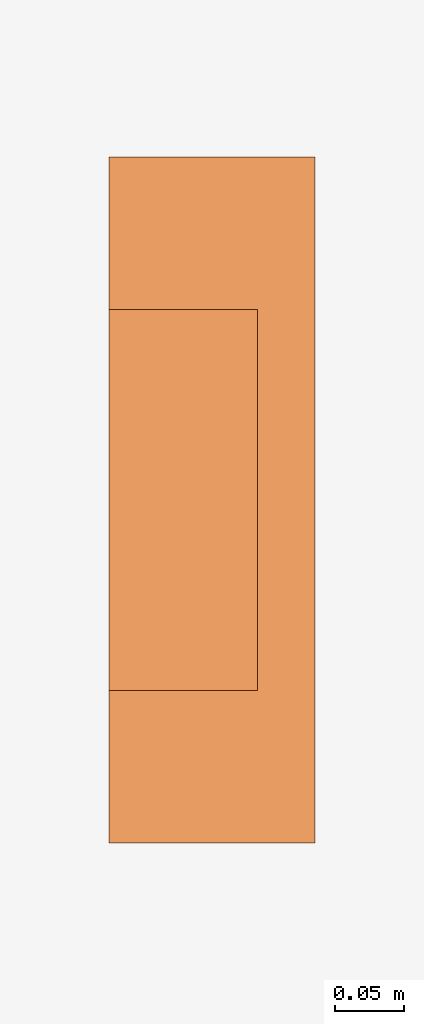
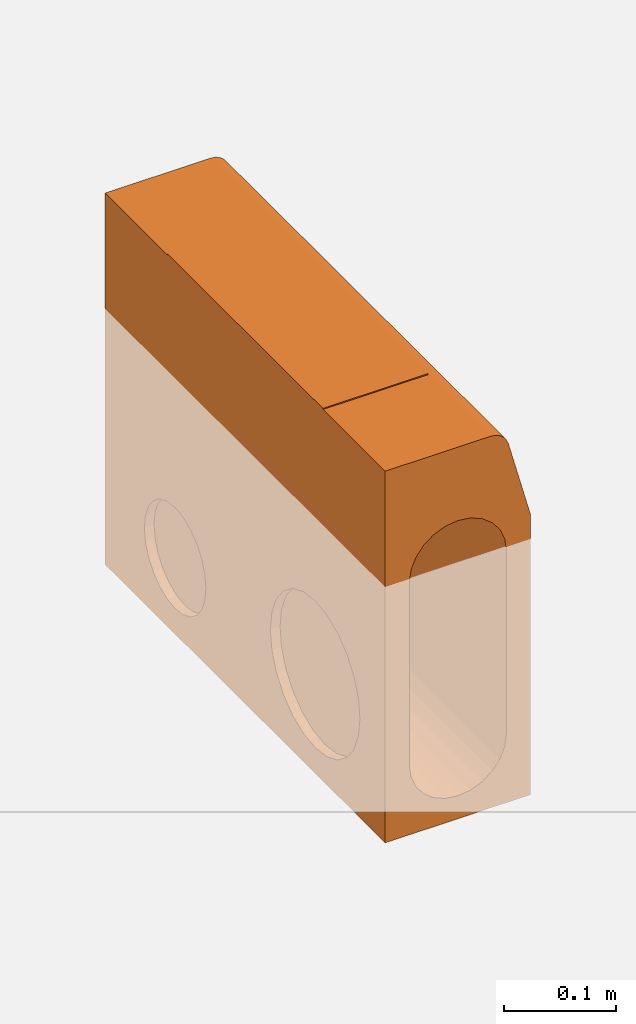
# One storey, part 2 of 2: 1 proxy.
"""IFC2X3 building model written with IfcOpenShell, lengths in millimetres."""

from ifc_helpers import new_model, entity, si_unit, converted_unit, direction, frame, origin, place, context, subcontext, project, spatial, faceted_brep, source, transform, mapped, material, material_list, element, save


model = new_model("IFC2X3")

# Units and contexts
model_context = context("Model", 3, precision=1e-06, world=origin(), true_north=direction((2.0, 6.12303176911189e-17, 1.0)))
context_of_model = context(None, 3, precision=1e-06, world=origin(), true_north=direction((2.0, 6.12303176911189e-17, 1.0)))
body_context = subcontext(model_context, "Body", "Model", "MODEL_VIEW")
ifc_project = project(units=[si_unit("LENGTHUNIT", "METRE", prefix="MILLI"), si_unit("AREAUNIT", "SQUARE_METRE", prefix="MILLI"), si_unit("VOLUMEUNIT", "CUBIC_METRE", prefix="MILLI"), converted_unit("PLANEANGLEUNIT", "DEGREE", entity("IfcRatioMeasure", 0.0174532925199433), si_unit("PLANEANGLEUNIT", "RADIAN"), dimensions=[0, 0, 0, 0, 0, 0, 0]), si_unit("TIMEUNIT", "SECOND")], contexts=[model_context, context_of_model])

# Site, building, storey
site_placement = place(None, origin())
site = spatial("IfcSite", under=ifc_project, at=site_placement, Name="Default", CompositionType="ELEMENT")
building_placement = place(site_placement, origin())
building = spatial("IfcBuilding", under=site, at=building_placement, CompositionType="ELEMENT")
storey_placement = place(building_placement, origin())
storey = spatial("IfcBuildingStorey", under=building, at=storey_placement, Name="Level 1", CompositionType="ELEMENT", Elevation=0.0)

# Proxy
ifc_material_1 = material(Name="ACO Polymer Concrete.")
ifc_material_2 = material(Name="Iron, Cast")
ifc_material_list = material_list([ifc_material_1, ifc_material_2])
shared_shape = source(origin(), body_context, "Body", "Brep", [
    faceted_brep([(65.0, 163.89087296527, -235.890872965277), (65.0, 172.631397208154, -224.500000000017), (65.0, 178.125920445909, -211.235047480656), (65.0, 152.50000000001, -244.631397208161), (65.0, 125.0, -252.0), (65.0, 139.235047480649, -250.125920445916), (65.0, 110.764952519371, -250.125920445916), (65.0, 172.631397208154, -169.500000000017), (65.0, 152.50000000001, -149.368602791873), (65.0, 86.1091270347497, -158.109127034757), (65.0, 180.0, -197.0), (65.0, 178.125920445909, -182.764952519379), (65.0, 163.89087296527, -158.109127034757), (65.0, 139.235047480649, -143.874079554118), (65.0, 110.764952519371, -143.874079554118), (65.0, 86.1091270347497, -235.890872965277), (65.0, 97.5000000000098, -244.631397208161), (65.0, 77.3686027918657, -224.500000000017), (65.0, 71.874079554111, -211.235047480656), (65.0, 70.0, -197.0), (65.0, 71.874079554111, -182.764952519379), (65.0, 97.5000000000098, -149.368602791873), (65.0, 125.0, -142.0), (65.0, 77.3686027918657, -169.500000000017), (-75.0, 0.0, -280.0), (-43.3012701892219, 0.0, -230.0), (-48.2962913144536, 0.0, -217.940952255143), (-35.355339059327, 0.0, -240.355339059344), (-50.0, 0.0, -205.0), (-50.0, 0.0, -5.0), (-75.0, 0.0, 125.0), (75.0, 0.0, -280.0), (12.9409522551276, 0.0, -253.29629131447), (0.0, 0.0, -255.0), (-25.0, 0.0, -248.301270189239), (-12.940952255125, 0.0, -253.29629131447), (-48.2962913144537, 0.0, 7.94095225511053), (-43.3012701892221, 0.0, 20.0), (-35.3553390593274, 0.0, 30.3553390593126), (-25.0, 0.0, 38.3012701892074), (-12.9409522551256, 0.0, 43.296291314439), (0.0, 0.0, 45.0), (33.6258679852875, 0.0, 125.0), (12.9409522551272, 0.0, 43.2962913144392), (51.9784586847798, 0.0, 110.917561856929), (35.3553390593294, 0.0, -240.355339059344), (25.0, 0.0, -248.301270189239), (43.3012701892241, 0.0, -230.0), (50.0, 0.0, -205.0), (48.2962913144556, 0.0, -217.940952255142), (75.0, 0.0, 25.0), (50.0, 0.0, -5.0), (48.2962913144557, 0.0, 7.94095225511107), (43.301270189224, 0.0, 20.0), (43.1258679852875, 0.0, 122.454482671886), (38.5434298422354, 0.0, 124.352590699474), (47.060896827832, 0.0, 119.435028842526), (25.0, 0.0, 38.3012701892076), (35.3553390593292, 0.0, 30.355339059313), (50.0803506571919, 0.0, 115.499999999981), (75.0, 500.0, -280.0), (48.2962913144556, 500.0, -217.940952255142), (50.0, 500.0, -205.0), (75.0, 500.0, 25.0), (43.3012701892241, 500.0, -230.0), (50.0, 500.0, -5.0), (25.0, 500.0, -248.301270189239), (35.3553390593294, 500.0, -240.355339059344), (48.2962913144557, 500.0, 7.94095225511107), (43.301270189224, 500.0, 20.0), (12.9409522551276, 500.0, -253.29629131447), (50.0803506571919, 500.0, 115.499999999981), (51.9784586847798, 500.0, 110.917561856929), (33.6258679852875, 500.0, 125.0), (47.060896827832, 500.0, 119.435028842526), (35.3553390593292, 500.0, 30.355339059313), (25.0, 500.0, 38.3012701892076), (12.9409522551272, 500.0, 43.2962913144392), (38.5434298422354, 500.0, 124.352590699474), (43.1258679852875, 500.0, 122.454482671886), (-12.940952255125, 500.0, -253.29629131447), (0.0, 500.0, -255.0), (-75.0, 500.0, -280.0), (-25.0, 500.0, -248.301270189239), (-35.355339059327, 500.0, -240.355339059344), (-43.3012701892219, 500.0, -230.0), (-48.2962913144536, 500.0, -217.940952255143), (-50.0, 500.0, -205.0), (-50.0, 500.0, -5.0), (-75.0, 500.0, 125.0), (-12.9409522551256, 500.0, 43.296291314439), (-25.0, 500.0, 38.3012701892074), (0.0, 500.0, 45.0), (-48.2962913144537, 500.0, 7.94095225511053), (-35.3553390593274, 500.0, 30.3553390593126), (-43.3012701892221, 500.0, 20.0), (-27.4999999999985, 202.36860279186, -280.0), (-14.2350474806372, 196.874079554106, -280.0), (-38.8908729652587, 211.109127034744, -280.0), (0.0, 195.0, -280.0), (-55.0, 250.0, -280.0), (-53.1259204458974, 235.764952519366, -280.0), (-47.6313972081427, 222.500000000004, -280.0), (14.2350474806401, 196.874079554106, -280.0), (27.5000000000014, 202.368602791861, -280.0), (38.8908729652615, 211.109127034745, -280.0), (47.6313972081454, 222.500000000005, -280.0), (53.1259204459, 235.764952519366, -280.0), (55.0, 250.0, -280.0), (-47.6313972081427, 277.500000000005, -280.0), (-53.1259204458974, 264.235047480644, -280.0), (-38.8908729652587, 288.890872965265, -280.0), (-27.4999999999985, 297.631397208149, -280.0), (-14.2350474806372, 303.125920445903, -280.0), (0.0, 305.0, -280.0), (53.1259204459, 264.235047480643, -280.0), (47.6313972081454, 277.500000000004, -280.0), (27.5000000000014, 297.631397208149, -280.0), (14.2350474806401, 303.125920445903, -280.0), (38.8908729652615, 288.890872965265, -280.0), (75.0, 97.5000000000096, -244.631397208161), (75.0, 86.1091270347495, -235.890872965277), (75.0, 110.764952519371, -250.125920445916), (75.0, 77.3686027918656, -224.500000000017), (75.0, 71.874079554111, -211.235047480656), (75.0, 70.0, -197.0), (75.0, 71.8740795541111, -182.764952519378), (75.0, 125.0, -252.0), (75.0, 139.235047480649, -250.125920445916), (75.0, 163.89087296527, -235.890872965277), (75.0, 152.50000000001, -244.631397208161), (75.0, 335.0, -241.282032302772), (75.0, 318.431457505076, -228.568542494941), (75.0, 178.125920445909, -211.235047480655), (75.0, 172.631397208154, -224.500000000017), (75.0, 305.717967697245, -212.0), (75.0, 297.725933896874, -192.705523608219), (75.0, 354.294476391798, -249.274066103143), (75.0, 77.3686027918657, -169.500000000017), (75.0, 86.1091270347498, -158.109127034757), (75.0, 97.5000000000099, -149.368602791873), (75.0, 110.764952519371, -143.874079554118), (75.0, 125.0, -142.0), (75.0, 178.125920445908, -182.764952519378), (75.0, 180.0, -197.0), (75.0, 295.0, -172.0), (75.0, 297.725933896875, -151.294476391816), (75.0, 172.631397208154, -169.500000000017), (75.0, 139.235047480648, -143.874079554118), (75.0, 318.431457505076, -115.431457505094), (75.0, 152.500000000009, -149.368602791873), (75.0, 163.89087296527, -158.109127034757), (75.0, 305.717967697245, -132.0), (75.0, 375.0, -252.0), (75.0, 395.705523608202, -249.274066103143), (75.0, 415.0, -241.282032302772), (75.0, 431.568542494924, -228.568542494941), (75.0, 444.282032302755, -212.0), (75.0, 455.0, -172.0), (75.0, 452.274066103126, -192.705523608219), (75.0, 354.294476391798, -94.725933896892), (75.0, 335.0, -102.717967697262), (75.0, 444.282032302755, -132.0), (75.0, 452.274066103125, -151.294476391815), (75.0, 431.568542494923, -115.431457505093), (75.0, 375.0, -92.0), (75.0, 395.705523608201, -94.7259338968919), (75.0, 415.0, -102.717967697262), (33.6258679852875, 152.199845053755, 125.0), (-75.0, 104.294476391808, -94.7259338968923), (-75.0, 85.0, -102.717967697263), (-75.0, 125.0, -92.0), (-75.0, 68.4314575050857, -115.431457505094), (-75.0, 55.7179676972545, -132.0), (-75.0, 47.7259338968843, -151.294476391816), (-75.0, 45.0, -172.0), (-75.0, 145.705523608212, -94.7259338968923), (-75.0, 165.0, -102.717967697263), (-75.0, 347.499999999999, -149.368602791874), (-75.0, 194.282032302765, -132.0), (-75.0, 181.568542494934, -115.431457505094), (-75.0, 360.764952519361, -143.87407955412), (-75.0, 205.0, -172.0), (-75.0, 202.274066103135, -151.294476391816), (-75.0, 321.874079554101, -182.76495251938), (-75.0, 320.0, -197.0), (-75.0, 336.109127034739, -158.109127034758), (-75.0, 47.7259338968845, -192.70552360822), (-75.0, 55.7179676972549, -212.0), (-75.0, 68.4314575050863, -228.568542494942), (-75.0, 85.0, -241.282032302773), (-75.0, 104.294476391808, -249.274066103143), (-75.0, 194.282032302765, -212.0), (-75.0, 202.274066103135, -192.70552360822), (-75.0, 321.874079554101, -211.235047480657), (-75.0, 327.368602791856, -224.500000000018), (-75.0, 181.568542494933, -228.568542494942), (-75.0, 336.10912703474, -235.890872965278), (-75.0, 125.0, -252.0), (-75.0, 145.705523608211, -249.274066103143), (-75.0, 165.0, -241.282032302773), (-75.0, 347.5, -244.631397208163), (-75.0, 360.764952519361, -250.125920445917), (-75.0, 327.368602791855, -169.500000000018), (-75.0, 375.0, -142.0), (-75.0, 389.235047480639, -143.87407955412), (-75.0, 402.5, -149.368602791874), (-75.0, 413.89087296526, -158.109127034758), (-75.0, 428.125920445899, -182.76495251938), (-75.0, 422.631397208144, -169.500000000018), (-75.0, 375.0, -252.0), (-75.0, 428.125920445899, -211.235047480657), (-75.0, 430.0, -197.0), (-75.0, 422.631397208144, -224.500000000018), (-75.0, 389.235047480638, -250.125920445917), (-75.0, 402.5, -244.631397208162), (-75.0, 413.89087296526, -235.890872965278), (51.9784586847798, 423.900064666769, 110.917561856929), (45.1923351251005, 383.807890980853, 121.073713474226), (48.6995814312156, 348.576324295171, 117.566467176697), (50.6694822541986, 104.87563410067, 114.397333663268), (48.6995813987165, 151.423670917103, 117.566467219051), (40.8968531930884, 348.576326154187, 123.553711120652), (37.0249115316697, 364.149902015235, 124.693488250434), (37.6444103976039, 238.971100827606, 124.570172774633), (50.5232021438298, 238.971095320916, 114.687928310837), (51.9784586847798, 304.399745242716, 110.917561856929), (50.8026538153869, 364.149900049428, 114.121454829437), (45.1923350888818, 116.192108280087, 121.073713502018), (47.9951537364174, 249.999998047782, 118.430753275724), (41.9140087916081, 250.0, 123.096979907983), (45.1923351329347, 249.999999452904, 121.073713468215), (33.6258679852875, 423.90007747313, 125.0), (51.9784586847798, 152.19987262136, 110.917561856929), (40.8968531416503, 151.423674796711, 123.553711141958), (33.6258679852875, 304.399690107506, 125.0), (37.3258574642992, 104.875635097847, 124.636257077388), (-65.0, 413.89087296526, -158.109127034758), (-65.0, 422.631397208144, -169.500000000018), (-65.0, 428.125920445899, -182.76495251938), (-65.0, 430.0, -197.0), (-65.0, 347.5, -244.631397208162), (-65.0, 389.235047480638, -250.125920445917), (-65.0, 389.235047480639, -143.874079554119), (-65.0, 402.5, -149.368602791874), (-65.0, 321.874079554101, -211.235047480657), (-65.0, 428.125920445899, -211.235047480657), (-65.0, 422.631397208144, -224.500000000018), (-65.0, 413.89087296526, -235.890872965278), (-65.0, 402.5, -244.631397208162), (-65.0, 375.0, -142.0), (-65.0, 327.368602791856, -169.500000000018), (-65.0, 347.5, -149.368602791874), (-65.0, 336.10912703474, -158.109127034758), (-65.0, 320.0, -197.0), (-65.0, 321.874079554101, -182.764952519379), (-65.0, 375.0, -252.0), (-65.0, 360.764952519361, -250.125920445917), (-65.0, 327.368602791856, -224.500000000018), (-65.0, 336.10912703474, -235.890872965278), (-65.0, 360.764952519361, -143.874079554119), (-65.0, 181.568542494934, -115.431457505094), (-65.0, 194.282032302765, -132.0), (-65.0, 202.274066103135, -151.294476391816), (-65.0, 165.0, -102.717967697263), (-65.0, 125.0, -92.0), (-65.0, 145.705523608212, -94.7259338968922), (-65.0, 181.568542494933, -228.568542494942), (-65.0, 125.0, -252.0), (-65.0, 202.274066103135, -192.70552360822), (-65.0, 194.282032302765, -212.0), (-65.0, 205.0, -172.0), (-65.0, 165.0, -241.282032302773), (-65.0, 145.705523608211, -249.274066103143), (-65.0, 104.294476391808, -94.7259338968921), (-65.0, 85.0, -102.717967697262), (-65.0, 55.7179676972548, -132.0), (-65.0, 68.4314575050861, -115.431457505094), (-65.0, 45.0, -172.0), (-65.0, 47.7259338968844, -151.294476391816), (-65.0, 55.7179676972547, -212.0), (-65.0, 47.7259338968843, -192.705523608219), (-65.0, 104.294476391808, -249.274066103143), (-65.0, 85.0, -241.282032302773), (-65.0, 68.4314575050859, -228.568542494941), (-27.4999999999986, 297.631397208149, -270.0), (-14.2350474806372, 303.125920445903, -270.0), (0.0, 305.0, -270.0), (-38.8908729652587, 288.890872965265, -270.0), (-53.1259204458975, 264.235047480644, -270.0), (-47.6313972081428, 277.500000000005, -270.0), (-38.890872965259, 211.109127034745, -270.0), (-14.2350474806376, 196.874079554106, -270.0), (14.23504748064, 303.125920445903, -270.0), (27.5000000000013, 297.631397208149, -270.0), (38.8908729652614, 288.890872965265, -270.0), (47.6313972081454, 277.500000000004, -270.0), (47.6313972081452, 222.500000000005, -270.0), (55.0, 250.0, -270.0), (53.1259204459, 264.235047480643, -270.0), (-53.1259204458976, 235.764952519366, -270.0), (-55.0, 250.0, -270.0), (-47.631397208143, 222.500000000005, -270.0), (-27.4999999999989, 202.368602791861, -270.0), (0.0, 195.0, -270.0), (27.500000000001, 202.36860279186, -270.0), (14.2350474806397, 196.874079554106, -270.0), (53.1259204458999, 235.764952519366, -270.0), (38.8908729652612, 211.109127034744, -270.0), (65.0, 452.274066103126, -192.705523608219), (65.0, 455.0, -172.0), (65.0, 444.282032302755, -212.0), (65.0, 431.568542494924, -228.568542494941), (65.0, 444.282032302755, -132.0), (65.0, 415.0, -241.282032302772), (65.0, 395.705523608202, -249.274066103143), (65.0, 395.705523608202, -94.7259338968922), (65.0, 375.0, -92.0), (65.0, 452.274066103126, -151.294476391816), (65.0, 431.568542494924, -115.431457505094), (65.0, 415.0, -102.717967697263), (65.0, 375.0, -252.0), (65.0, 354.294476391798, -249.274066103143), (65.0, 335.0, -241.282032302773), (65.0, 297.725933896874, -192.705523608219), (65.0, 318.431457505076, -228.568542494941), (65.0, 297.725933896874, -151.294476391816), (65.0, 295.0, -172.0), (65.0, 305.717967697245, -212.0), (65.0, 354.294476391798, -94.7259338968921), (65.0, 335.0, -102.717967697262), (65.0, 318.431457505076, -115.431457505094), (65.0, 305.717967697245, -132.0)], [[[0, 1, 2, 3]], [[4, 5, 3, 6]], [[7, 3, 2]], [[8, 9, 3, 7]], [[2, 10, 11, 7]], [[12, 8, 7]], [[9, 8, 13, 14]], [[15, 16, 6, 17]], [[9, 18, 17, 3]], [[19, 18, 9, 20]], [[21, 9, 14]], [[14, 13, 22]], [[23, 20, 9]], [[17, 6, 3]], [[24, 25, 26]], [[25, 24, 27]], [[26, 28, 24]], [[24, 28, 29, 30]], [[31, 32, 33]], [[34, 27, 24]], [[35, 34, 24]], [[33, 35, 24, 31]], [[29, 36, 30]], [[30, 37, 38]], [[37, 30, 36]], [[38, 39, 30]], [[40, 41, 42, 30]], [[39, 40, 30]], [[42, 41, 43, 44]], [[45, 46, 31]], [[45, 31, 47]], [[48, 49, 31, 50]], [[31, 49, 47]], [[50, 51, 48]], [[52, 51, 50]], [[46, 32, 31]], [[53, 52, 50]], [[54, 55, 42, 56]], [[44, 57, 58, 50]], [[44, 43, 57]], [[42, 44, 59, 56]], [[58, 53, 50]], [[60, 61, 62, 63]], [[61, 60, 64]], [[63, 62, 65]], [[66, 67, 60]], [[68, 69, 63]], [[67, 64, 60]], [[60, 70, 66]], [[65, 68, 63]], [[71, 72, 73, 74]], [[72, 63, 75, 76]], [[77, 73, 72, 76]], [[73, 78, 79, 74]], [[63, 69, 75]], [[80, 81, 82]], [[80, 82, 83]], [[81, 70, 60, 82]], [[84, 82, 85]], [[82, 84, 83]], [[86, 85, 82]], [[87, 86, 82]], [[88, 87, 82, 89]], [[89, 73, 90, 91]], [[90, 73, 92]], [[93, 88, 89]], [[94, 95, 89]], [[89, 95, 93]], [[94, 89, 91]], [[92, 73, 77]], [[24, 96, 97]], [[96, 24, 98]], [[24, 97, 99]], [[100, 101, 24]], [[102, 98, 24]], [[101, 102, 24]], [[24, 82, 100]], [[99, 103, 31, 24]], [[31, 103, 104]], [[104, 105, 31]], [[106, 107, 31]], [[105, 106, 31]], [[31, 107, 108]], [[109, 110, 82]], [[111, 109, 82]], [[112, 82, 113]], [[82, 112, 111]], [[114, 113, 82, 60]], [[110, 100, 82]], [[115, 116, 60]], [[108, 115, 60]], [[117, 118, 60]], [[119, 60, 116]], [[60, 119, 117]], [[118, 114, 60]], [[108, 60, 31]], [[31, 120, 121]], [[120, 31, 122]], [[31, 121, 123]], [[124, 125, 31]], [[123, 124, 31]], [[31, 125, 126]], [[127, 122, 31]], [[128, 127, 31, 60]], [[129, 130, 131, 132]], [[133, 134, 135, 136]], [[134, 129, 132, 135]], [[130, 128, 137, 131]], [[138, 139, 50]], [[126, 138, 50, 31]], [[50, 140, 141]], [[140, 50, 139]], [[50, 141, 142]], [[143, 144, 145, 146]], [[147, 143, 146]], [[50, 142, 148, 149]], [[149, 148, 150]], [[151, 147, 146, 152]], [[150, 151, 152, 149]], [[144, 133, 136, 145]], [[60, 153, 137, 128]], [[154, 60, 155]], [[60, 154, 153]], [[155, 60, 156]], [[157, 156, 60]], [[158, 159, 60, 63]], [[157, 60, 159]], [[160, 63, 50, 161]], [[162, 163, 63]], [[164, 162, 63]], [[165, 166, 63]], [[167, 63, 166]], [[63, 167, 164]], [[165, 63, 160]], [[163, 158, 63]], [[161, 50, 149]], [[89, 30, 42, 168]], [[30, 169, 170]], [[169, 30, 171]], [[30, 170, 172]], [[173, 174, 30]], [[172, 173, 30]], [[24, 30, 174, 175]], [[176, 171, 30, 89]], [[89, 177, 176]], [[178, 179, 180, 181]], [[182, 183, 184, 185]], [[186, 183, 179, 178]], [[181, 180, 177, 89]], [[187, 188, 24]], [[175, 187, 24]], [[24, 189, 190]], [[189, 24, 188]], [[24, 190, 191]], [[192, 193, 194, 195]], [[196, 192, 195, 197]], [[191, 198, 24]], [[199, 200, 201, 202]], [[24, 198, 199, 202]], [[200, 196, 197, 201]], [[193, 182, 185, 194]], [[203, 184, 183]], [[203, 183, 186]], [[204, 89, 205]], [[89, 204, 181]], [[205, 89, 206]], [[207, 206, 89]], [[208, 209, 89, 82]], [[207, 89, 209]], [[202, 210, 82, 24]], [[211, 212, 82]], [[213, 211, 82]], [[214, 215, 82]], [[216, 82, 215]], [[82, 216, 213]], [[214, 82, 210]], [[212, 208, 82]], [[72, 217, 50, 63]], [[74, 218, 219]], [[59, 220, 221]], [[222, 223, 224]], [[225, 226, 227]], [[71, 74, 219]], [[227, 71, 219]], [[228, 221, 229]], [[79, 78, 222]], [[74, 79, 218]], [[59, 221, 56]], [[230, 218, 222]], [[71, 217, 72]], [[231, 228, 229, 218]], [[78, 73, 232]], [[44, 233, 220]], [[54, 234, 55]], [[223, 232, 235]], [[228, 234, 54]], [[234, 236, 55]], [[54, 56, 228]], [[231, 218, 230, 228]], [[168, 236, 224]], [[233, 226, 225]], [[222, 218, 79]], [[55, 236, 42]], [[221, 228, 56]], [[71, 227, 217]], [[226, 217, 227]], [[219, 229, 225]], [[219, 225, 227]], [[225, 221, 220]], [[224, 223, 235]], [[232, 223, 78]], [[78, 223, 222]], [[168, 224, 235]], [[224, 234, 230]], [[224, 230, 222]], [[228, 230, 234]], [[44, 220, 59]], [[225, 220, 233]], [[225, 229, 221]], [[218, 229, 219]], [[224, 236, 234]], [[42, 236, 168]], [[88, 29, 28, 87]], [[37, 36, 93, 95]], [[38, 37, 95, 94]], [[40, 39, 91, 90]], [[39, 38, 94, 91]], [[41, 40, 90, 92]], [[36, 29, 88, 93]], [[57, 43, 77, 76]], [[58, 57, 76, 75]], [[52, 53, 69, 68]], [[53, 58, 75, 69]], [[51, 52, 68, 65]], [[92, 77, 43, 41]], [[62, 48, 51, 65]], [[47, 49, 61, 64]], [[45, 47, 64, 67]], [[32, 46, 66, 70]], [[46, 45, 67, 66]], [[33, 32, 70, 81]], [[49, 48, 62, 61]], [[34, 35, 80, 83]], [[27, 34, 83, 84]], [[26, 25, 85, 86]], [[25, 27, 84, 85]], [[28, 26, 86, 87]], [[81, 80, 35, 33]], [[237, 238, 239, 240]], [[241, 237, 240, 242]], [[243, 244, 237, 245]], [[246, 247, 248, 242]], [[240, 246, 242]], [[249, 242, 248]], [[250, 243, 245, 251]], [[252, 250, 251, 253]], [[254, 255, 251, 245]], [[256, 257, 241, 242]], [[258, 245, 259]], [[237, 241, 259, 245]], [[250, 252, 260]], [[242, 214, 210, 256]], [[249, 215, 214, 242]], [[247, 213, 216, 248]], [[248, 216, 215, 249]], [[246, 211, 213, 247]], [[211, 246, 240, 212]], [[239, 208, 212, 240]], [[238, 209, 208, 239]], [[244, 206, 207, 237]], [[237, 207, 209, 238]], [[243, 205, 206, 244]], [[205, 243, 250, 204]], [[260, 181, 204, 250]], [[252, 178, 181, 260]], [[251, 203, 186, 253]], [[253, 186, 178, 252]], [[255, 184, 203, 251]], [[184, 255, 254, 185]], [[245, 194, 185, 254]], [[258, 195, 194, 245]], [[241, 201, 197, 259]], [[259, 197, 195, 258]], [[257, 202, 201, 241]], [[202, 257, 256, 210]], [[261, 262, 263, 264]], [[265, 266, 264, 263]], [[267, 268, 263, 269]], [[270, 267, 269]], [[263, 271, 269]], [[267, 272, 273, 268]], [[274, 265, 263, 275]], [[275, 263, 276, 277]], [[263, 278, 279, 276]], [[278, 263, 280, 281]], [[282, 283, 284, 280]], [[268, 282, 280, 263]], [[273, 199, 198, 268]], [[272, 200, 199, 273]], [[270, 192, 196, 267]], [[267, 196, 200, 272]], [[269, 193, 192, 270]], [[193, 269, 271, 182]], [[263, 183, 182, 271]], [[262, 179, 183, 263]], [[264, 177, 180, 261]], [[261, 180, 179, 262]], [[266, 176, 177, 264]], [[176, 266, 265, 171]], [[274, 169, 171, 265]], [[275, 170, 169, 274]], [[276, 173, 172, 277]], [[277, 172, 170, 275]], [[279, 174, 173, 276]], [[174, 279, 278, 175]], [[281, 187, 175, 278]], [[280, 188, 187, 281]], [[283, 190, 189, 284]], [[284, 189, 188, 280]], [[282, 191, 190, 283]], [[282, 268, 198, 191]], [[285, 286, 287, 288]], [[288, 287, 289, 290]], [[291, 289, 287, 292]], [[287, 293, 294, 295]], [[287, 295, 296, 297]], [[298, 296, 299]], [[300, 301, 289, 291]], [[291, 302, 300]], [[297, 292, 287]], [[303, 291, 292]], [[304, 292, 305, 306]], [[298, 307, 297, 296]], [[297, 308, 305, 292]], [[299, 115, 108, 298]], [[296, 116, 115, 299]], [[294, 117, 119, 295]], [[295, 119, 116, 296]], [[293, 118, 117, 294]], [[118, 293, 287, 114]], [[286, 113, 114, 287]], [[285, 112, 113, 286]], [[290, 109, 111, 288]], [[288, 111, 112, 285]], [[289, 110, 109, 290]], [[110, 289, 301, 100]], [[300, 101, 100, 301]], [[302, 102, 101, 300]], [[303, 96, 98, 291]], [[291, 98, 102, 302]], [[292, 97, 96, 303]], [[97, 292, 304, 99]], [[306, 103, 99, 304]], [[305, 104, 103, 306]], [[297, 106, 105, 308]], [[308, 105, 104, 305]], [[307, 107, 106, 297]], [[107, 307, 298, 108]], [[309, 310, 311]], [[312, 311, 313, 314]], [[315, 314, 316, 317]], [[310, 318, 313, 311]], [[319, 320, 316, 313]], [[313, 316, 314]], [[321, 315, 317, 322]], [[323, 322, 324, 325]], [[324, 322, 326, 327]], [[328, 325, 324]], [[317, 329, 330, 326]], [[330, 331, 332, 326]], [[326, 322, 317]], [[13, 148, 142, 22]], [[8, 150, 148, 13]], [[7, 147, 151, 12]], [[12, 151, 150, 8]], [[11, 143, 147, 7]], [[143, 11, 10, 144]], [[2, 133, 144, 10]], [[1, 134, 133, 2]], [[3, 130, 129, 0]], [[0, 129, 134, 1]], [[5, 128, 130, 3]], [[128, 5, 4, 127]], [[6, 122, 127, 4]], [[16, 120, 122, 6]], [[17, 123, 121, 15]], [[15, 121, 120, 16]], [[18, 124, 123, 17]], [[124, 18, 19, 125]], [[20, 126, 125, 19]], [[23, 138, 126, 20]], [[21, 140, 139, 9]], [[9, 139, 138, 23]], [[14, 141, 140, 21]], [[141, 14, 22, 142]], [[316, 166, 165, 317]], [[320, 167, 166, 316]], [[313, 162, 164, 319]], [[319, 164, 167, 320]], [[318, 163, 162, 313]], [[163, 318, 310, 158]], [[309, 159, 158, 310]], [[311, 157, 159, 309]], [[314, 155, 156, 312]], [[312, 156, 157, 311]], [[315, 154, 155, 314]], [[154, 315, 321, 153]], [[322, 137, 153, 321]], [[323, 131, 137, 322]], [[328, 135, 132, 325]], [[325, 132, 131, 323]], [[324, 136, 135, 328]], [[136, 324, 327, 145]], [[326, 146, 145, 327]], [[332, 152, 146, 326]], [[330, 161, 149, 331]], [[331, 149, 152, 332]], [[329, 160, 161, 330]], [[329, 317, 165, 160]], [[89, 168, 235, 232]], [[89, 232, 73]], [[50, 217, 226, 233]], [[50, 233, 44]]]),
    faceted_brep([(-75.0, 111.0, 126.144067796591), (-75.0, 111.0, 123.263731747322), (-30.3167137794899, 111.0, 126.144067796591), (33.0, 111.0, 123.263731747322), (33.0, 111.0, 126.144067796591), (33.0, 389.0, 126.144067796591), (33.0, 389.0, 123.263731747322), (-30.3167137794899, 389.0, 126.144067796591), (-75.0, 389.0, 123.263731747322), (-75.0, 389.0, 126.144067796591)], [[[0, 1, 2]], [[3, 4, 2, 1]], [[5, 6, 7]], [[8, 9, 7, 6]], [[8, 6, 3, 1]], [[9, 8, 1, 0]], [[6, 5, 4, 3]], [[7, 9, 0, 2]], [[4, 5, 7, 2]]]),
])
proxy_placement = place(storey_placement, frame((-14541.5994818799, -705.326112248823, 0.0)))
element("IfcBuildingElementProxy", 1, at=proxy_placement, inside=storey, material=ifc_material_list, Name="Civil-Drainage-Channel-ACO-KerbDrain-HB405:4233 - Access Unit - 500mm LG:4233 - Access Unit - 500mm LG", ObjectType="4233 - Access Unit - 500mm LG", CompositionType="ELEMENT", context=body_context, shape_type="MappedRepresentation", body=[
    mapped(shared_shape, transform((0.0, 0.0, 0.0), scale=1.0)),
])

save(model, "model.ifc")
